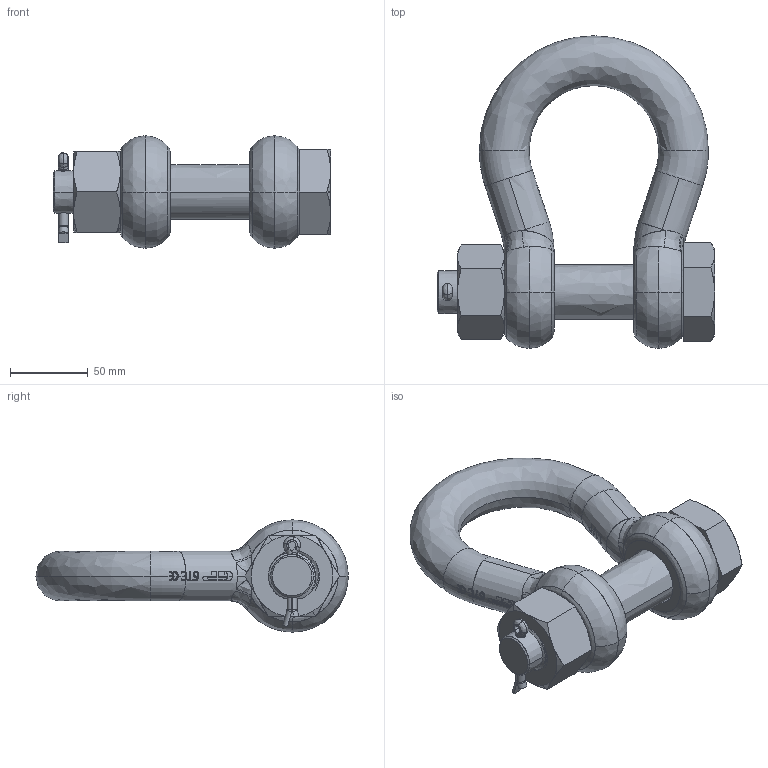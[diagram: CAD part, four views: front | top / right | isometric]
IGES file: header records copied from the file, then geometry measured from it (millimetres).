
Start section: START RECORD GO HERE.
Global section: file name: 12.igs; native system: Solidworks 2009            ion 5 Release 17 ; preprocessor: CATIA Version 5 Release 17 ; author: v.b.; organization: P4; date: 20090807.082435; units: millimetre
Bounding box: 178 x 200.5 x 72 mm (x, y, z)
Surface area: 101098.6 mm2 (no closed solid volume)
Topology: 0 solids, 0 shells, 772 faces, 4530 edges, 4522 vertices
Faces by surface type: plane 316, bspline 274, revolution 182
